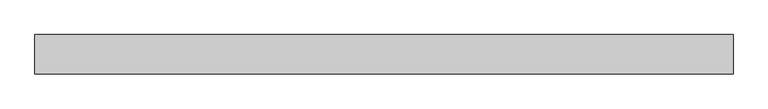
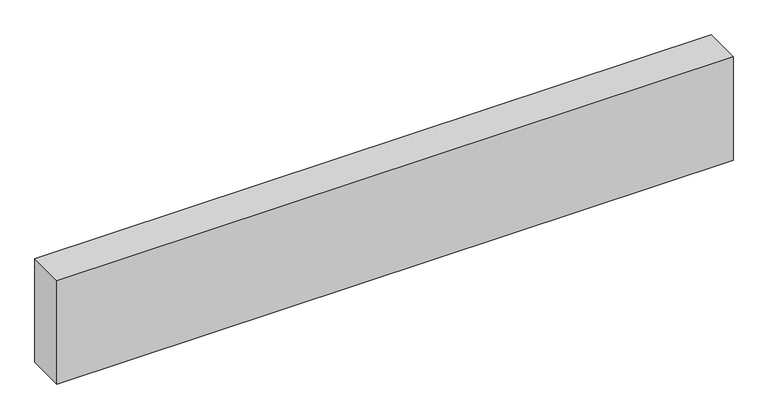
"""IFC4 building model written with IfcOpenShell, lengths in millimetres: proxy geometry."""

from ifc_helpers import new_model, si_unit, frame, origin, place, context, project, spatial, polyline, outline, extrude, source, transform, mapped, element, save


def structural_framing_acc67b91(model_context):
    return source(origin(), model_context, "Body", "SweptSolid", [
        extrude(outline(polyline([(-1237.95, -70.0), (-1237.95, 70.0), (1237.95, 70.0), (1237.95, -70.0), (-1237.95, -70.0)])), frame((0.0, 0.0, -400.0), z_axis=(0.0, 0.0, 1.0), x_axis=(1.0, 0.0, 0.0)), (0.0, 0.0, 1.0), 400.0),
    ])


if __name__ == "__main__":
    model = new_model("IFC4")
    model_context = context("Model", 3, world=origin())
    ifc_project = project(units=[si_unit("LENGTHUNIT", "METRE", prefix="MILLI")], contexts=[model_context])
    site = spatial("IfcSite", under=ifc_project)
    building = spatial("IfcBuilding", under=site)
    placement = place(None, origin())
    structural_framing_shape = structural_framing_acc67b91(model_context)
    element("IfcBuildingElementProxy", 1, Name="Structural Framing", at=placement, inside=building, context=model_context, shape_type="MappedRepresentation", body=[
        mapped(structural_framing_shape, transform((0.0, 0.0, 0.0), x_axis=(1.0, 0.0, 0.0), y_axis=(0.0, 1.0, 0.0), z_axis=(0.0, 0.0, 1.0))),
    ])
    save(model, "model.ifc")
